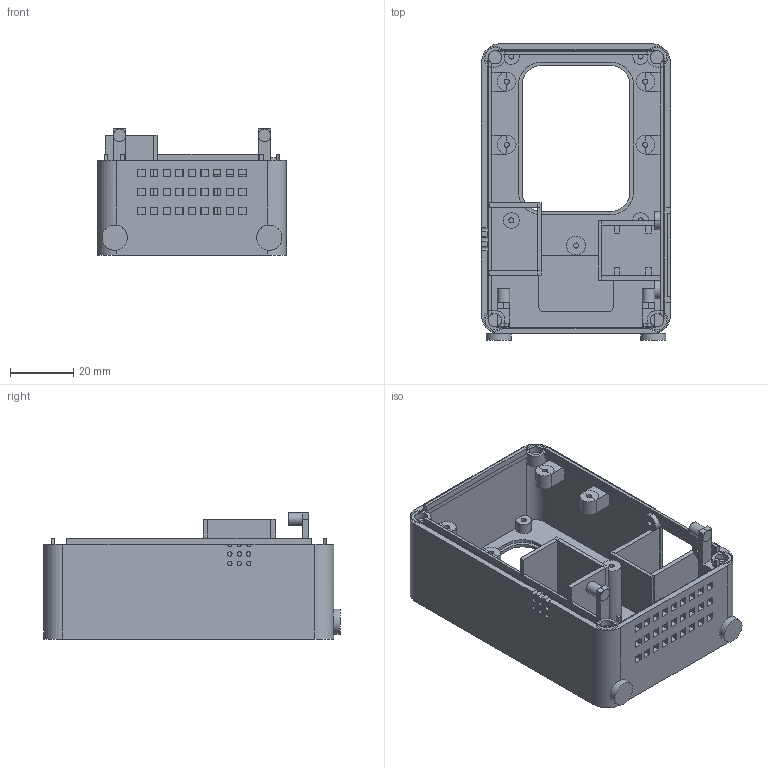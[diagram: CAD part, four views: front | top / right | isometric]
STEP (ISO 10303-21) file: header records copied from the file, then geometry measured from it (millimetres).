
FILE_DESCRIPTION(('Open CASCADE Model'),'2;1');
FILE_NAME('Open CASCADE Shape Model','2026-11-09T21:30:05',('Author'),( 'Open CASCADE'),'Open CASCADE STEP processor 8.0','Open CASCADE 8.0' ,'Unknown');
FILE_SCHEMA(('AUTOMOTIVE_DESIGN { 1 0 10303 214 1 1 1 1 }'));
Length unit declared in the file: millimetre
Products named in the file (1): Open CASCADE STEP translator 8.0 1
Bounding box: 60 x 94 x 40 mm (x, y, z)
Volume: 30701.4 mm3; surface area: 34887 mm2
Topology: 1 solids, 1 shells, 550 faces, 1440 edges, 906 vertices
Faces by surface type: plane 459, cylinder 91
Full cylindrical faces by diameter (mm): 1.4 x6, 1.6 x17, 4 x4, 4.2 x4, 5 x2, 5.6 x3, 6 x1, 8 x2
Entity records: 34856 total; most frequent: CARTESIAN_POINT 7231, DIRECTION 4712, ORIENTED_EDGE 2880, PCURVE 2880, DEFINITIONAL_REPRESENTATION 2880, LINE 2534, VECTOR 2534, EDGE_CURVE 1440
